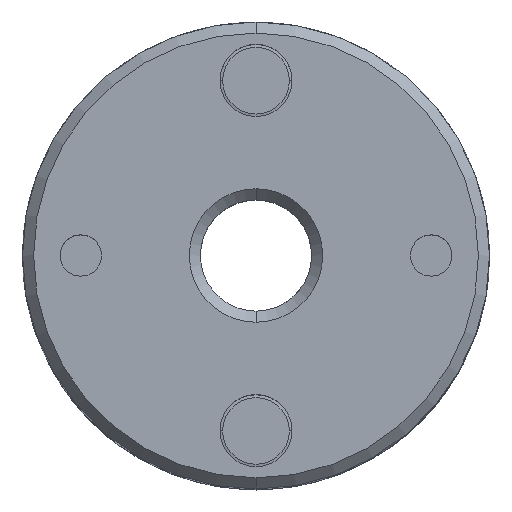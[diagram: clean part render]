
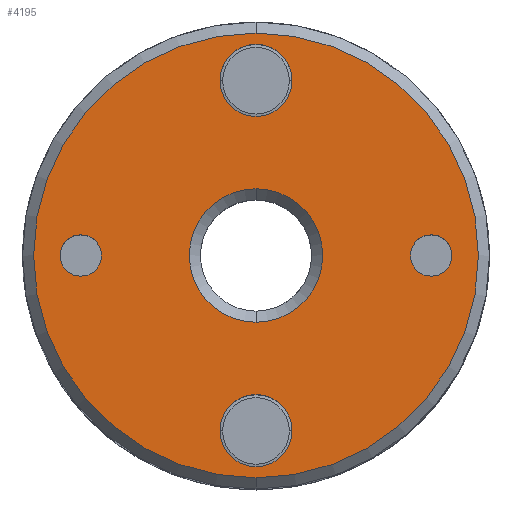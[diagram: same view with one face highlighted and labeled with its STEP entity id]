
A CAD part, top view. The second image highlights one B-rep face of the part: STEP entity #4195.
In plain terms, the highlighted planar face has unit normal (0, 0, 1).
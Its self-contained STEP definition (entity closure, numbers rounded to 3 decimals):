
#1499=CARTESIAN_POINT('',(0.,3.8,5.25));
#1500=VERTEX_POINT('',#1499);
#1516=CARTESIAN_POINT('',(0.,2.5,5.25));
#1517=VERTEX_POINT('',#1516);
#1524=CARTESIAN_POINT('',(0.,3.15,5.25));
#1525=DIRECTION('',(0.0,0.0,-1.0));
#1526=DIRECTION('',(0.0,1.0,0.0));
#1527=AXIS2_PLACEMENT_3D('',#1524,#1525,#1526);
#1528=CIRCLE('',#1527,0.65);
#1529=EDGE_CURVE('',#1500,#1517,#1528,.T.);
#1541=CARTESIAN_POINT('',(0.,-2.5,5.25));
#1542=VERTEX_POINT('',#1541);
#1558=CARTESIAN_POINT('',(0.,-3.8,5.25));
#1559=VERTEX_POINT('',#1558);
#1566=CARTESIAN_POINT('',(0.,-3.15,5.25));
#1567=DIRECTION('',(0.0,0.0,-1.0));
#1568=DIRECTION('',(0.0,1.0,0.0));
#1569=AXIS2_PLACEMENT_3D('',#1566,#1567,#1568);
#1570=CIRCLE('',#1569,0.65);
#1571=EDGE_CURVE('',#1542,#1559,#1570,.T.);
#1583=CARTESIAN_POINT('',(-3.15,0.375,5.25));
#1584=VERTEX_POINT('',#1583);
#1600=CARTESIAN_POINT('',(-3.15,-0.375,5.25));
#1601=VERTEX_POINT('',#1600);
#1608=CARTESIAN_POINT('',(-3.15,0.,5.25));
#1609=DIRECTION('',(0.0,0.0,-1.0));
#1610=DIRECTION('',(0.0,1.0,0.0));
#1611=AXIS2_PLACEMENT_3D('',#1608,#1609,#1610);
#1612=CIRCLE('',#1611,0.375);
#1613=EDGE_CURVE('',#1584,#1601,#1612,.T.);
#1625=CARTESIAN_POINT('',(3.15,0.375,5.25));
#1626=VERTEX_POINT('',#1625);
#1642=CARTESIAN_POINT('',(3.15,-0.375,5.25));
#1643=VERTEX_POINT('',#1642);
#1650=CARTESIAN_POINT('',(3.15,0.,5.25));
#1651=DIRECTION('',(0.0,0.0,-1.0));
#1652=DIRECTION('',(0.0,1.0,0.0));
#1653=AXIS2_PLACEMENT_3D('',#1650,#1651,#1652);
#1654=CIRCLE('',#1653,0.375);
#1655=EDGE_CURVE('',#1626,#1643,#1654,.T.);
#1768=CARTESIAN_POINT('',(0.,-1.2,5.25));
#1769=VERTEX_POINT('',#1768);
#1783=CARTESIAN_POINT('',(0.,1.2,5.25));
#1784=VERTEX_POINT('',#1783);
#1791=CARTESIAN_POINT('',(0.,0.,5.25));
#1792=DIRECTION('',(0.0,0.0,1.0));
#1793=DIRECTION('',(0.0,-1.0,0.0));
#1794=AXIS2_PLACEMENT_3D('',#1791,#1792,#1793);
#1795=CIRCLE('',#1794,1.2);
#1796=EDGE_CURVE('',#1784,#1769,#1795,.T.);
#1937=CARTESIAN_POINT('',(0.,-4.0,5.25));
#1938=VERTEX_POINT('',#1937);
#1945=CARTESIAN_POINT('',(0.,4.0,5.25));
#1946=VERTEX_POINT('',#1945);
#1947=CARTESIAN_POINT('',(0.,0.,5.25));
#1948=DIRECTION('',(0.0,0.0,-1.0));
#1949=DIRECTION('',(0.0,-1.0,0.0));
#1950=AXIS2_PLACEMENT_3D('',#1947,#1948,#1949);
#1951=CIRCLE('',#1950,4.0);
#1952=EDGE_CURVE('',#1938,#1946,#1951,.T.);
#4126=CARTESIAN_POINT('',(0.,0.,5.25));
#4127=DIRECTION('',(0.0,0.0,-1.0));
#4128=DIRECTION('',(0.0,-1.0,0.0));
#4129=AXIS2_PLACEMENT_3D('',#4126,#4127,#4128);
#4130=CIRCLE('',#4129,4.0);
#4131=EDGE_CURVE('',#1946,#1938,#4130,.T.);
#4136=CARTESIAN_POINT('',(0.,0.382,5.25));
#4137=DIRECTION('',(0.0,0.0,-1.0));
#4138=DIRECTION('',(0.0,1.0,0.0));
#4139=AXIS2_PLACEMENT_3D('',#4136,#4137,#4138);
#4140=PLANE('',#4139);
#4141=ORIENTED_EDGE('',*,*,#4131,.F.);
#4142=ORIENTED_EDGE('',*,*,#1952,.F.);
#4143=EDGE_LOOP('',(#4141,#4142));
#4144=FACE_OUTER_BOUND('',#4143,.T.);
#4145=ORIENTED_EDGE('',*,*,#1796,.F.);
#4146=CARTESIAN_POINT('',(0.,0.,5.25));
#4147=DIRECTION('',(0.0,0.0,1.0));
#4148=DIRECTION('',(0.0,-1.0,0.0));
#4149=AXIS2_PLACEMENT_3D('',#4146,#4147,#4148);
#4150=CIRCLE('',#4149,1.2);
#4151=EDGE_CURVE('',#1769,#1784,#4150,.T.);
#4152=ORIENTED_EDGE('',*,*,#4151,.F.);
#4153=EDGE_LOOP('',(#4145,#4152));
#4154=FACE_BOUND('',#4153,.T.);
#4155=ORIENTED_EDGE('',*,*,#1655,.T.);
#4156=CARTESIAN_POINT('',(3.15,0.,5.25));
#4157=DIRECTION('',(0.0,0.0,-1.0));
#4158=DIRECTION('',(0.0,1.0,0.0));
#4159=AXIS2_PLACEMENT_3D('',#4156,#4157,#4158);
#4160=CIRCLE('',#4159,0.375);
#4161=EDGE_CURVE('',#1643,#1626,#4160,.T.);
#4162=ORIENTED_EDGE('',*,*,#4161,.T.);
#4163=EDGE_LOOP('',(#4155,#4162));
#4164=FACE_BOUND('',#4163,.T.);
#4165=ORIENTED_EDGE('',*,*,#1613,.T.);
#4166=CARTESIAN_POINT('',(-3.15,0.,5.25));
#4167=DIRECTION('',(0.0,0.0,-1.0));
#4168=DIRECTION('',(0.0,1.0,0.0));
#4169=AXIS2_PLACEMENT_3D('',#4166,#4167,#4168);
#4170=CIRCLE('',#4169,0.375);
#4171=EDGE_CURVE('',#1601,#1584,#4170,.T.);
#4172=ORIENTED_EDGE('',*,*,#4171,.T.);
#4173=EDGE_LOOP('',(#4165,#4172));
#4174=FACE_BOUND('',#4173,.T.);
#4175=ORIENTED_EDGE('',*,*,#1571,.T.);
#4176=CARTESIAN_POINT('',(0.,-3.15,5.25));
#4177=DIRECTION('',(0.0,0.0,-1.0));
#4178=DIRECTION('',(0.0,1.0,0.0));
#4179=AXIS2_PLACEMENT_3D('',#4176,#4177,#4178);
#4180=CIRCLE('',#4179,0.65);
#4181=EDGE_CURVE('',#1559,#1542,#4180,.T.);
#4182=ORIENTED_EDGE('',*,*,#4181,.T.);
#4183=EDGE_LOOP('',(#4175,#4182));
#4184=FACE_BOUND('',#4183,.T.);
#4185=ORIENTED_EDGE('',*,*,#1529,.T.);
#4186=CARTESIAN_POINT('',(0.,3.15,5.25));
#4187=DIRECTION('',(0.0,0.0,-1.0));
#4188=DIRECTION('',(0.0,1.0,0.0));
#4189=AXIS2_PLACEMENT_3D('',#4186,#4187,#4188);
#4190=CIRCLE('',#4189,0.65);
#4191=EDGE_CURVE('',#1517,#1500,#4190,.T.);
#4192=ORIENTED_EDGE('',*,*,#4191,.T.);
#4193=EDGE_LOOP('',(#4185,#4192));
#4194=FACE_BOUND('',#4193,.T.);
#4195=ADVANCED_FACE('',(#4144,#4154,#4164,#4174,#4184,#4194),#4140,.F.);
